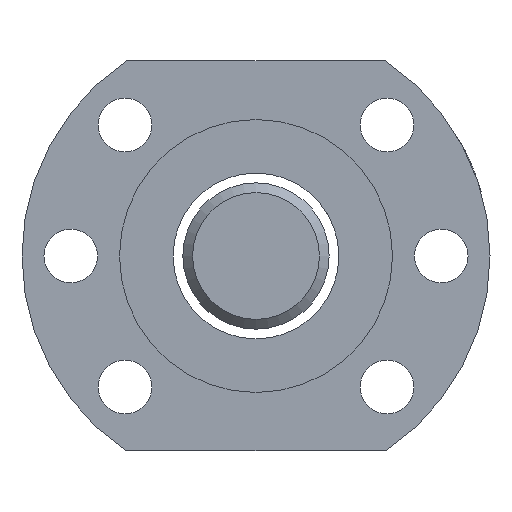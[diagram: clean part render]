
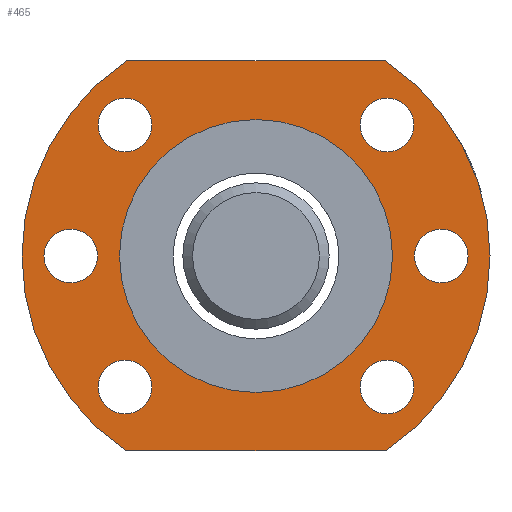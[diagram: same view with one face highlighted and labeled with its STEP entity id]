
A CAD part, left-side view. The second image highlights one B-rep face of the part: STEP entity #465.
In plain terms, the highlighted planar face has unit normal (-1, 0, 0).
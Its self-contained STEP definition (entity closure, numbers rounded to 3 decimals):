
#59=PLANE('',#541);
#74=CIRCLE('',#512,24.);
#80=CIRCLE('',#520,2.75);
#82=CIRCLE('',#523,2.75);
#84=CIRCLE('',#526,2.75);
#86=CIRCLE('',#529,2.75);
#88=CIRCLE('',#532,2.75);
#90=CIRCLE('',#535,2.75);
#91=CIRCLE('',#539,24.);
#93=CIRCLE('',#542,14.);
#140=ORIENTED_EDGE('',*,*,#236,.F.);
#141=ORIENTED_EDGE('',*,*,#206,.T.);
#142=ORIENTED_EDGE('',*,*,#228,.T.);
#143=ORIENTED_EDGE('',*,*,#234,.T.);
#144=ORIENTED_EDGE('',*,*,#231,.T.);
#145=ORIENTED_EDGE('',*,*,#227,.F.);
#146=ORIENTED_EDGE('',*,*,#225,.F.);
#147=ORIENTED_EDGE('',*,*,#217,.T.);
#148=ORIENTED_EDGE('',*,*,#219,.T.);
#149=ORIENTED_EDGE('',*,*,#223,.F.);
#150=ORIENTED_EDGE('',*,*,#221,.T.);
#206=EDGE_CURVE('',#257,#256,#74,.T.);
#217=EDGE_CURVE('',#267,#267,#80,.T.);
#219=EDGE_CURVE('',#269,#269,#82,.T.);
#221=EDGE_CURVE('',#271,#271,#84,.T.);
#223=EDGE_CURVE('',#273,#273,#86,.T.);
#225=EDGE_CURVE('',#275,#275,#88,.T.);
#227=EDGE_CURVE('',#277,#277,#90,.T.);
#228=EDGE_CURVE('',#256,#278,#298,.T.);
#231=EDGE_CURVE('',#280,#257,#301,.T.);
#234=EDGE_CURVE('',#278,#280,#91,.T.);
#236=EDGE_CURVE('',#282,#282,#93,.T.);
#256=VERTEX_POINT('',#712);
#257=VERTEX_POINT('',#714);
#267=VERTEX_POINT('',#755);
#269=VERTEX_POINT('',#760);
#271=VERTEX_POINT('',#765);
#273=VERTEX_POINT('',#770);
#275=VERTEX_POINT('',#775);
#277=VERTEX_POINT('',#780);
#278=VERTEX_POINT('',#783);
#280=VERTEX_POINT('',#789);
#282=VERTEX_POINT('',#798);
#298=LINE('',#782,#306);
#301=LINE('',#788,#309);
#306=VECTOR('',#630,1000.);
#309=VECTOR('',#635,1000.);
#331=EDGE_LOOP('',(#140));
#332=EDGE_LOOP('',(#141,#142,#143,#144));
#333=EDGE_LOOP('',(#145));
#334=EDGE_LOOP('',(#146));
#335=EDGE_LOOP('',(#147));
#336=EDGE_LOOP('',(#148));
#337=EDGE_LOOP('',(#149));
#338=EDGE_LOOP('',(#150));
#394=FACE_BOUND('',#331,.T.);
#395=FACE_BOUND('',#332,.T.);
#396=FACE_BOUND('',#333,.T.);
#397=FACE_BOUND('',#334,.T.);
#398=FACE_BOUND('',#335,.T.);
#399=FACE_BOUND('',#336,.T.);
#400=FACE_BOUND('',#337,.T.);
#401=FACE_BOUND('',#338,.T.);
#465=ADVANCED_FACE('',(#394,#395,#396,#397,#398,#399,#400,#401),#59,.T.);
#512=AXIS2_PLACEMENT_3D('',#713,#579,#580);
#520=AXIS2_PLACEMENT_3D('',#754,#596,#597);
#523=AXIS2_PLACEMENT_3D('',#759,#602,#603);
#526=AXIS2_PLACEMENT_3D('',#764,#608,#609);
#529=AXIS2_PLACEMENT_3D('',#769,#614,#615);
#532=AXIS2_PLACEMENT_3D('',#774,#620,#621);
#535=AXIS2_PLACEMENT_3D('',#779,#626,#627);
#539=AXIS2_PLACEMENT_3D('',#794,#640,#641);
#541=AXIS2_PLACEMENT_3D('',#796,#644,#645);
#542=AXIS2_PLACEMENT_3D('',#797,#646,#647);
#579=DIRECTION('',(-1.,0.,0.));
#580=DIRECTION('',(0.,0.,-1.));
#596=DIRECTION('',(1.,0.,0.));
#597=DIRECTION('',(0.,0.,1.));
#602=DIRECTION('',(1.,0.,0.));
#603=DIRECTION('',(0.,0.,1.));
#608=DIRECTION('',(1.,0.,0.));
#609=DIRECTION('',(0.,0.,1.));
#614=DIRECTION('',(-1.,0.,0.));
#615=DIRECTION('',(0.,0.,1.));
#620=DIRECTION('',(-1.,0.,0.));
#621=DIRECTION('',(0.,0.,1.));
#626=DIRECTION('',(-1.,0.,0.));
#627=DIRECTION('',(0.,0.,1.));
#630=DIRECTION('',(0.,1.,0.));
#635=DIRECTION('',(0.,-1.,0.));
#640=DIRECTION('',(-1.,0.,0.));
#641=DIRECTION('',(0.,0.,-1.));
#644=DIRECTION('',(-1.,0.,0.));
#645=DIRECTION('',(0.,0.,-1.));
#646=DIRECTION('',(-1.,0.,0.));
#647=DIRECTION('',(0.,0.,-1.));
#712=CARTESIAN_POINT('',(-26.222,-64.814,23.065));
#713=CARTESIAN_POINT('',(-26.222,-51.547,3.065));
#714=CARTESIAN_POINT('',(-26.222,-64.814,-16.935));
#754=CARTESIAN_POINT('',(-26.222,-64.982,16.5));
#755=CARTESIAN_POINT('',(-26.222,-64.982,19.25));
#759=CARTESIAN_POINT('',(-26.222,-70.547,3.065));
#760=CARTESIAN_POINT('',(-26.222,-70.547,5.815));
#764=CARTESIAN_POINT('',(-26.222,-64.982,-10.37));
#765=CARTESIAN_POINT('',(-26.222,-64.982,-7.62));
#769=CARTESIAN_POINT('',(-26.222,-38.112,-10.37));
#770=CARTESIAN_POINT('',(-26.222,-38.112,-7.62));
#774=CARTESIAN_POINT('',(-26.222,-38.112,16.5));
#775=CARTESIAN_POINT('',(-26.222,-38.112,19.25));
#779=CARTESIAN_POINT('',(-26.222,-32.547,3.065));
#780=CARTESIAN_POINT('',(-26.222,-32.547,5.815));
#782=CARTESIAN_POINT('',(-26.222,-64.814,23.065));
#783=CARTESIAN_POINT('',(-26.222,-38.281,23.065));
#788=CARTESIAN_POINT('',(-26.222,-38.281,-16.935));
#789=CARTESIAN_POINT('',(-26.222,-38.281,-16.935));
#794=CARTESIAN_POINT('',(-26.222,-51.547,3.065));
#796=CARTESIAN_POINT('',(-26.222,-51.547,3.065));
#797=CARTESIAN_POINT('',(-26.222,-51.547,3.065));
#798=CARTESIAN_POINT('',(-26.222,-51.547,-10.935));
